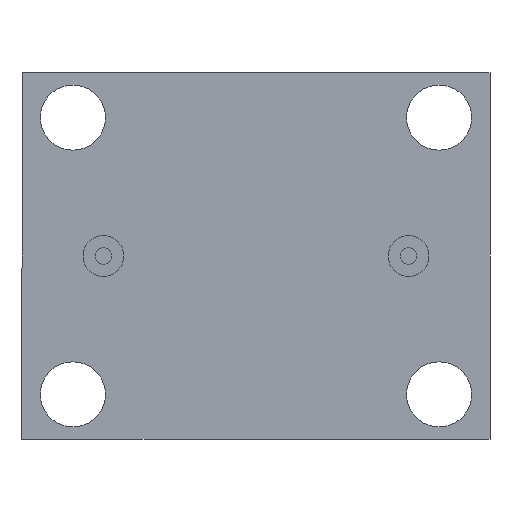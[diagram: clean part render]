
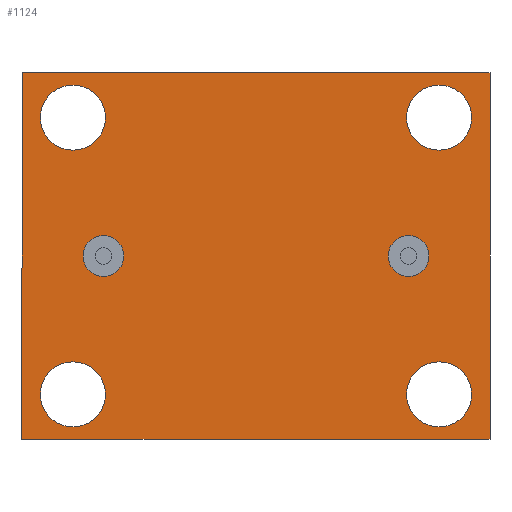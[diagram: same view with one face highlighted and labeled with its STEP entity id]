
A CAD part, front view. The second image highlights one B-rep face of the part: STEP entity #1124.
In plain terms, the highlighted planar face has unit normal (0, -1, 0).
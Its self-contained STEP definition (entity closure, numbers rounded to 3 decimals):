
#17 = CARTESIAN_POINT ( 'NONE',  ( -45., 0., -34. ) ) ;
#21 = VERTEX_POINT ( 'NONE', #1216 ) ;
#24 = DIRECTION ( 'NONE',  ( 0., 0., -1. ) ) ;
#39 = CIRCLE ( 'NONE', #766, 5. ) ;
#47 = CARTESIAN_POINT ( 'NONE',  ( 57.5, 0., -45. ) ) ;
#61 = AXIS2_PLACEMENT_3D ( 'NONE', #571, #70, #1258 ) ;
#64 = CARTESIAN_POINT ( 'NONE',  ( -45., 0., -26. ) ) ;
#67 = DIRECTION ( 'NONE',  ( 0., -1., 0. ) ) ;
#70 = DIRECTION ( 'NONE',  ( 0., 1., 0. ) ) ;
#73 = ORIENTED_EDGE ( 'NONE', *, *, #432, .F. ) ;
#74 = VERTEX_POINT ( 'NONE', #358 ) ;
#76 = EDGE_LOOP ( 'NONE', ( #946, #372 ) ) ;
#79 = CIRCLE ( 'NONE', #393, 8. ) ;
#88 = CARTESIAN_POINT ( 'NONE',  ( -57.5, 0., -45. ) ) ;
#103 = ORIENTED_EDGE ( 'NONE', *, *, #561, .T. ) ;
#105 = FACE_OUTER_BOUND ( 'NONE', #1112, .T. ) ;
#114 = VERTEX_POINT ( 'NONE', #47 ) ;
#127 = CARTESIAN_POINT ( 'NONE',  ( -45., 0., -34. ) ) ;
#147 = VERTEX_POINT ( 'NONE', #1169 ) ;
#150 = VERTEX_POINT ( 'NONE', #470 ) ;
#154 = EDGE_CURVE ( 'NONE', #913, #356, #304, .T. ) ;
#158 = AXIS2_PLACEMENT_3D ( 'NONE', #1256, #963, #251 ) ;
#160 = DIRECTION ( 'NONE',  ( 0., 1., 0. ) ) ;
#199 = CIRCLE ( 'NONE', #204, 8. ) ;
#204 = AXIS2_PLACEMENT_3D ( 'NONE', #17, #336, #1031 ) ;
#206 = CARTESIAN_POINT ( 'NONE',  ( -37.5, 0., -5. ) ) ;
#213 = VERTEX_POINT ( 'NONE', #278 ) ;
#214 = FACE_BOUND ( 'NONE', #884, .T. ) ;
#222 = CARTESIAN_POINT ( 'NONE',  ( 45., 0., 34. ) ) ;
#229 = AXIS2_PLACEMENT_3D ( 'NONE', #548, #233, #933 ) ;
#233 = DIRECTION ( 'NONE',  ( 0., -1., 0. ) ) ;
#251 = DIRECTION ( 'NONE',  ( 0., 0., 1. ) ) ;
#261 = ORIENTED_EDGE ( 'NONE', *, *, #1192, .F. ) ;
#278 = CARTESIAN_POINT ( 'NONE',  ( 45., 0., 42. ) ) ;
#279 = VERTEX_POINT ( 'NONE', #894 ) ;
#280 = FACE_BOUND ( 'NONE', #76, .T. ) ;
#287 = DIRECTION ( 'NONE',  ( 0., 0., 1. ) ) ;
#293 = ORIENTED_EDGE ( 'NONE', *, *, #701, .F. ) ;
#304 = CIRCLE ( 'NONE', #61, 8. ) ;
#309 = VECTOR ( 'NONE', #1252, 1000. ) ;
#324 = LINE ( 'NONE', #385, #824 ) ;
#325 = CARTESIAN_POINT ( 'NONE',  ( 57.5, 0., 45. ) ) ;
#330 = DIRECTION ( 'NONE',  ( 0., 0., 1. ) ) ;
#333 = ORIENTED_EDGE ( 'NONE', *, *, #764, .T. ) ;
#336 = DIRECTION ( 'NONE',  ( 0., 1., 0. ) ) ;
#342 = DIRECTION ( 'NONE',  ( 0., 1., 0. ) ) ;
#356 = VERTEX_POINT ( 'NONE', #394 ) ;
#358 = CARTESIAN_POINT ( 'NONE',  ( -57.5, 0., -45. ) ) ;
#365 = CARTESIAN_POINT ( 'NONE',  ( -57.5, 0., 45. ) ) ;
#372 = ORIENTED_EDGE ( 'NONE', *, *, #1157, .T. ) ;
#385 = CARTESIAN_POINT ( 'NONE',  ( -57.5, 0., -45. ) ) ;
#386 = EDGE_LOOP ( 'NONE', ( #699, #1019 ) ) ;
#393 = AXIS2_PLACEMENT_3D ( 'NONE', #454, #660, #1241 ) ;
#394 = CARTESIAN_POINT ( 'NONE',  ( 45., 0., -26. ) ) ;
#403 = ORIENTED_EDGE ( 'NONE', *, *, #154, .T. ) ;
#408 = AXIS2_PLACEMENT_3D ( 'NONE', #955, #750, #659 ) ;
#419 = DIRECTION ( 'NONE',  ( 0., 0., 1. ) ) ;
#432 = EDGE_CURVE ( 'NONE', #114, #74, #592, .T. ) ;
#454 = CARTESIAN_POINT ( 'NONE',  ( 45., 0., 34. ) ) ;
#470 = CARTESIAN_POINT ( 'NONE',  ( -45., 0., -42. ) ) ;
#472 = DIRECTION ( 'NONE',  ( 0., 0., 1. ) ) ;
#474 = CARTESIAN_POINT ( 'NONE',  ( -37.5, 0., 0. ) ) ;
#495 = EDGE_CURVE ( 'NONE', #651, #114, #988, .T. ) ;
#496 = VECTOR ( 'NONE', #24, 1000. ) ;
#505 = LINE ( 'NONE', #365, #309 ) ;
#547 = VERTEX_POINT ( 'NONE', #920 ) ;
#548 = CARTESIAN_POINT ( 'NONE',  ( -37.5, 0., 0. ) ) ;
#561 = EDGE_CURVE ( 'NONE', #213, #21, #661, .T. ) ;
#566 = VERTEX_POINT ( 'NONE', #206 ) ;
#571 = CARTESIAN_POINT ( 'NONE',  ( 45., 0., -34. ) ) ;
#592 = LINE ( 'NONE', #88, #798 ) ;
#621 = ORIENTED_EDGE ( 'NONE', *, *, #1265, .T. ) ;
#623 = EDGE_LOOP ( 'NONE', ( #1145, #649 ) ) ;
#629 = EDGE_CURVE ( 'NONE', #150, #802, #1115, .T. ) ;
#632 = AXIS2_PLACEMENT_3D ( 'NONE', #127, #1132, #330 ) ;
#649 = ORIENTED_EDGE ( 'NONE', *, *, #1184, .F. ) ;
#651 = VERTEX_POINT ( 'NONE', #325 ) ;
#658 = EDGE_CURVE ( 'NONE', #1217, #566, #808, .T. ) ;
#659 = DIRECTION ( 'NONE',  ( 0., 0., -1. ) ) ;
#660 = DIRECTION ( 'NONE',  ( 0., 1., 0. ) ) ;
#661 = CIRCLE ( 'NONE', #1073, 8. ) ;
#673 = CARTESIAN_POINT ( 'NONE',  ( 37.5, 0., 0. ) ) ;
#674 = CARTESIAN_POINT ( 'NONE',  ( 45., 0., -42. ) ) ;
#696 = CARTESIAN_POINT ( 'NONE',  ( -45., 0., 34. ) ) ;
#699 = ORIENTED_EDGE ( 'NONE', *, *, #1125, .T. ) ;
#700 = AXIS2_PLACEMENT_3D ( 'NONE', #722, #809, #419 ) ;
#701 = EDGE_CURVE ( 'NONE', #566, #1217, #983, .T. ) ;
#703 = CIRCLE ( 'NONE', #158, 8. ) ;
#712 = CARTESIAN_POINT ( 'NONE',  ( 57.5, 0., -45. ) ) ;
#718 = PLANE ( 'NONE',  #700 ) ;
#722 = CARTESIAN_POINT ( 'NONE',  ( 0., 0., 0. ) ) ;
#750 = DIRECTION ( 'NONE',  ( 0., -1., 0. ) ) ;
#756 = VERTEX_POINT ( 'NONE', #1042 ) ;
#757 = VERTEX_POINT ( 'NONE', #953 ) ;
#761 = CARTESIAN_POINT ( 'NONE',  ( 45., 0., -34. ) ) ;
#764 = EDGE_CURVE ( 'NONE', #21, #213, #79, .T. ) ;
#766 = AXIS2_PLACEMENT_3D ( 'NONE', #673, #848, #1154 ) ;
#789 = AXIS2_PLACEMENT_3D ( 'NONE', #474, #67, #1257 ) ;
#798 = VECTOR ( 'NONE', #905, 1000. ) ;
#802 = VERTEX_POINT ( 'NONE', #64 ) ;
#808 = CIRCLE ( 'NONE', #229, 5. ) ;
#809 = DIRECTION ( 'NONE',  ( 0., 1., 0. ) ) ;
#819 = ORIENTED_EDGE ( 'NONE', *, *, #495, .F. ) ;
#821 = EDGE_LOOP ( 'NONE', ( #103, #333 ) ) ;
#824 = VECTOR ( 'NONE', #287, 1000. ) ;
#848 = DIRECTION ( 'NONE',  ( 0., -1., 0. ) ) ;
#873 = EDGE_CURVE ( 'NONE', #74, #147, #324, .T. ) ;
#884 = EDGE_LOOP ( 'NONE', ( #621, #403 ) ) ;
#894 = CARTESIAN_POINT ( 'NONE',  ( -45., 0., 26. ) ) ;
#905 = DIRECTION ( 'NONE',  ( -1., 0., 0. ) ) ;
#913 = VERTEX_POINT ( 'NONE', #674 ) ;
#920 = CARTESIAN_POINT ( 'NONE',  ( 37.5, 0., 5. ) ) ;
#933 = DIRECTION ( 'NONE',  ( 0., 0., -1. ) ) ;
#934 = CIRCLE ( 'NONE', #408, 5. ) ;
#946 = ORIENTED_EDGE ( 'NONE', *, *, #984, .T. ) ;
#953 = CARTESIAN_POINT ( 'NONE',  ( -45., 0., 42. ) ) ;
#955 = CARTESIAN_POINT ( 'NONE',  ( 37.5, 0., 0. ) ) ;
#963 = DIRECTION ( 'NONE',  ( 0., 1., 0. ) ) ;
#967 = FACE_BOUND ( 'NONE', #1076, .T. ) ;
#969 = CARTESIAN_POINT ( 'NONE',  ( -37.5, 0., 5. ) ) ;
#981 = CIRCLE ( 'NONE', #1116, 8. ) ;
#983 = CIRCLE ( 'NONE', #789, 5. ) ;
#984 = EDGE_CURVE ( 'NONE', #757, #279, #1208, .T. ) ;
#988 = LINE ( 'NONE', #712, #496 ) ;
#997 = DIRECTION ( 'NONE',  ( 0., 0., 1. ) ) ;
#1002 = DIRECTION ( 'NONE',  ( 0., 1., 0. ) ) ;
#1019 = ORIENTED_EDGE ( 'NONE', *, *, #629, .T. ) ;
#1023 = FACE_BOUND ( 'NONE', #821, .T. ) ;
#1031 = DIRECTION ( 'NONE',  ( 0., 0., 1. ) ) ;
#1035 = ORIENTED_EDGE ( 'NONE', *, *, #658, .F. ) ;
#1042 = CARTESIAN_POINT ( 'NONE',  ( 37.5, 0., -5. ) ) ;
#1073 = AXIS2_PLACEMENT_3D ( 'NONE', #222, #342, #1122 ) ;
#1076 = EDGE_LOOP ( 'NONE', ( #293, #1035 ) ) ;
#1098 = FACE_BOUND ( 'NONE', #623, .T. ) ;
#1112 = EDGE_LOOP ( 'NONE', ( #819, #261, #1142, #73 ) ) ;
#1115 = CIRCLE ( 'NONE', #632, 8. ) ;
#1116 = AXIS2_PLACEMENT_3D ( 'NONE', #761, #160, #472 ) ;
#1122 = DIRECTION ( 'NONE',  ( 0., 0., 1. ) ) ;
#1124 = ADVANCED_FACE ( 'NONE', ( #1098, #967, #214, #1023, #280, #1239, #105 ), #718, .F. ) ;
#1125 = EDGE_CURVE ( 'NONE', #802, #150, #199, .T. ) ;
#1132 = DIRECTION ( 'NONE',  ( 0., 1., 0. ) ) ;
#1134 = EDGE_CURVE ( 'NONE', #756, #547, #39, .T. ) ;
#1136 = AXIS2_PLACEMENT_3D ( 'NONE', #696, #1002, #997 ) ;
#1142 = ORIENTED_EDGE ( 'NONE', *, *, #873, .F. ) ;
#1145 = ORIENTED_EDGE ( 'NONE', *, *, #1134, .F. ) ;
#1154 = DIRECTION ( 'NONE',  ( 0., 0., -1. ) ) ;
#1157 = EDGE_CURVE ( 'NONE', #279, #757, #703, .T. ) ;
#1169 = CARTESIAN_POINT ( 'NONE',  ( -57.5, 0., 45. ) ) ;
#1184 = EDGE_CURVE ( 'NONE', #547, #756, #934, .T. ) ;
#1192 = EDGE_CURVE ( 'NONE', #147, #651, #505, .T. ) ;
#1208 = CIRCLE ( 'NONE', #1136, 8. ) ;
#1216 = CARTESIAN_POINT ( 'NONE',  ( 45., 0., 26. ) ) ;
#1217 = VERTEX_POINT ( 'NONE', #969 ) ;
#1239 = FACE_BOUND ( 'NONE', #386, .T. ) ;
#1241 = DIRECTION ( 'NONE',  ( 0., 0., 1. ) ) ;
#1252 = DIRECTION ( 'NONE',  ( 1., 0., 0. ) ) ;
#1256 = CARTESIAN_POINT ( 'NONE',  ( -45., 0., 34. ) ) ;
#1257 = DIRECTION ( 'NONE',  ( 0., 0., -1. ) ) ;
#1258 = DIRECTION ( 'NONE',  ( 0., 0., 1. ) ) ;
#1265 = EDGE_CURVE ( 'NONE', #356, #913, #981, .T. ) ;
